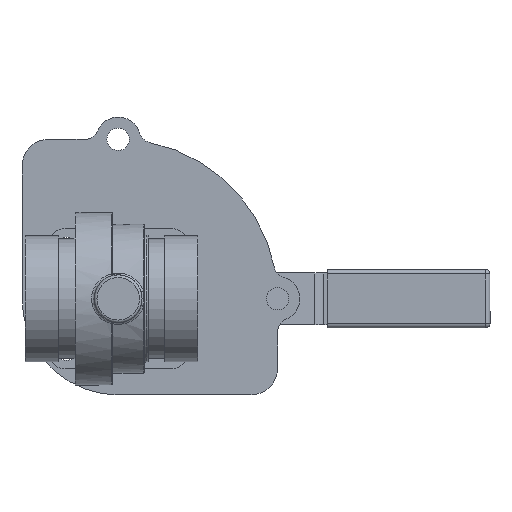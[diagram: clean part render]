
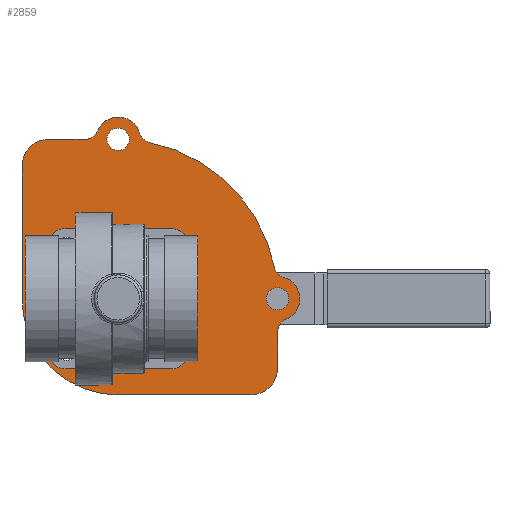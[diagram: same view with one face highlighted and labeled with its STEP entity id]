
A CAD part, front view. The second image highlights one B-rep face of the part: STEP entity #2859.
In plain terms, the highlighted planar face has unit normal (0, -1, 0).
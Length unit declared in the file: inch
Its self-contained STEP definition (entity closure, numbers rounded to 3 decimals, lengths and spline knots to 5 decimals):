
#128=FACE_BOUND('',#493,.T.);
#129=FACE_BOUND('',#494,.T.);
#130=FACE_BOUND('',#495,.T.);
#131=FACE_BOUND('',#496,.T.);
#132=FACE_BOUND('',#497,.T.);
#133=FACE_BOUND('',#498,.T.);
#134=FACE_BOUND('',#499,.T.);
#172=PLANE('',#3267);
#314=FACE_OUTER_BOUND('',#492,.T.);
#492=EDGE_LOOP('',(#2262,#2263,#2264,#2265,#2266,#2267,#2268,#2269,#2270,
#2271,#2272,#2273,#2274,#2275));
#493=EDGE_LOOP('',(#2276));
#494=EDGE_LOOP('',(#2277));
#495=EDGE_LOOP('',(#2278));
#496=EDGE_LOOP('',(#2279));
#497=EDGE_LOOP('',(#2280));
#498=EDGE_LOOP('',(#2281));
#499=EDGE_LOOP('',(#2282));
#629=LINE('',#5368,#800);
#633=LINE('',#5380,#804);
#643=LINE('',#5428,#814);
#647=LINE('',#5439,#818);
#800=VECTOR('',#3872,0.3937);
#804=VECTOR('',#3884,0.3937);
#814=VECTOR('',#3938,0.3937);
#818=VECTOR('',#3950,0.3937);
#1021=CIRCLE('',#3214,0.21);
#1023=CIRCLE('',#3217,0.19);
#1025=CIRCLE('',#3220,0.19);
#1027=CIRCLE('',#3223,0.19);
#1029=CIRCLE('',#3226,0.19);
#1031=CIRCLE('',#3229,0.21);
#1033=CIRCLE('',#3232,0.36);
#1034=CIRCLE('',#3234,1.81);
#1036=CIRCLE('',#3238,0.5);
#1038=CIRCLE('',#3242,0.25);
#1040=CIRCLE('',#3245,0.42);
#1042=CIRCLE('',#3248,0.25);
#1044=CIRCLE('',#3251,3.);
#1046=CIRCLE('',#3254,0.25);
#1048=CIRCLE('',#3257,0.42);
#1050=CIRCLE('',#3260,0.25);
#1052=CIRCLE('',#3264,0.5);
#1225=VERTEX_POINT('',#5318);
#1227=VERTEX_POINT('',#5324);
#1229=VERTEX_POINT('',#5330);
#1231=VERTEX_POINT('',#5336);
#1233=VERTEX_POINT('',#5342);
#1235=VERTEX_POINT('',#5348);
#1237=VERTEX_POINT('',#5354);
#1238=VERTEX_POINT('',#5358);
#1239=VERTEX_POINT('',#5359);
#1242=VERTEX_POINT('',#5367);
#1244=VERTEX_POINT('',#5373);
#1246=VERTEX_POINT('',#5379);
#1248=VERTEX_POINT('',#5385);
#1250=VERTEX_POINT('',#5391);
#1252=VERTEX_POINT('',#5397);
#1254=VERTEX_POINT('',#5403);
#1256=VERTEX_POINT('',#5409);
#1258=VERTEX_POINT('',#5415);
#1260=VERTEX_POINT('',#5421);
#1262=VERTEX_POINT('',#5427);
#1264=VERTEX_POINT('',#5433);
#1560=EDGE_CURVE('',#1225,#1225,#1021,.T.);
#1563=EDGE_CURVE('',#1227,#1227,#1023,.T.);
#1566=EDGE_CURVE('',#1229,#1229,#1025,.T.);
#1569=EDGE_CURVE('',#1231,#1231,#1027,.T.);
#1572=EDGE_CURVE('',#1233,#1233,#1029,.T.);
#1575=EDGE_CURVE('',#1235,#1235,#1031,.T.);
#1578=EDGE_CURVE('',#1237,#1237,#1033,.T.);
#1579=EDGE_CURVE('',#1238,#1239,#1034,.T.);
#1583=EDGE_CURVE('',#1239,#1242,#629,.T.);
#1586=EDGE_CURVE('',#1242,#1244,#1036,.T.);
#1589=EDGE_CURVE('',#1244,#1246,#633,.T.);
#1592=EDGE_CURVE('',#1246,#1248,#1038,.T.);
#1595=EDGE_CURVE('',#1248,#1250,#1040,.T.);
#1598=EDGE_CURVE('',#1250,#1252,#1042,.T.);
#1601=EDGE_CURVE('',#1252,#1254,#1044,.T.);
#1604=EDGE_CURVE('',#1254,#1256,#1046,.T.);
#1607=EDGE_CURVE('',#1256,#1258,#1048,.T.);
#1610=EDGE_CURVE('',#1258,#1260,#1050,.T.);
#1613=EDGE_CURVE('',#1260,#1262,#643,.T.);
#1616=EDGE_CURVE('',#1262,#1264,#1052,.T.);
#1619=EDGE_CURVE('',#1264,#1238,#647,.T.);
#2262=ORIENTED_EDGE('',*,*,#1619,.T.);
#2263=ORIENTED_EDGE('',*,*,#1579,.T.);
#2264=ORIENTED_EDGE('',*,*,#1583,.T.);
#2265=ORIENTED_EDGE('',*,*,#1586,.T.);
#2266=ORIENTED_EDGE('',*,*,#1589,.T.);
#2267=ORIENTED_EDGE('',*,*,#1592,.T.);
#2268=ORIENTED_EDGE('',*,*,#1595,.T.);
#2269=ORIENTED_EDGE('',*,*,#1598,.T.);
#2270=ORIENTED_EDGE('',*,*,#1601,.T.);
#2271=ORIENTED_EDGE('',*,*,#1604,.T.);
#2272=ORIENTED_EDGE('',*,*,#1607,.T.);
#2273=ORIENTED_EDGE('',*,*,#1610,.T.);
#2274=ORIENTED_EDGE('',*,*,#1613,.T.);
#2275=ORIENTED_EDGE('',*,*,#1616,.T.);
#2276=ORIENTED_EDGE('',*,*,#1560,.T.);
#2277=ORIENTED_EDGE('',*,*,#1563,.T.);
#2278=ORIENTED_EDGE('',*,*,#1566,.T.);
#2279=ORIENTED_EDGE('',*,*,#1569,.T.);
#2280=ORIENTED_EDGE('',*,*,#1572,.T.);
#2281=ORIENTED_EDGE('',*,*,#1575,.T.);
#2282=ORIENTED_EDGE('',*,*,#1578,.T.);
#2859=ADVANCED_FACE('',(#314,#128,#129,#130,#131,#132,#133,#134),#172,.F.);
#3214=AXIS2_PLACEMENT_3D('',#5320,#3818,#3819);
#3217=AXIS2_PLACEMENT_3D('',#5326,#3825,#3826);
#3220=AXIS2_PLACEMENT_3D('',#5332,#3832,#3833);
#3223=AXIS2_PLACEMENT_3D('',#5338,#3839,#3840);
#3226=AXIS2_PLACEMENT_3D('',#5344,#3846,#3847);
#3229=AXIS2_PLACEMENT_3D('',#5350,#3853,#3854);
#3232=AXIS2_PLACEMENT_3D('',#5356,#3860,#3861);
#3234=AXIS2_PLACEMENT_3D('',#5360,#3864,#3865);
#3238=AXIS2_PLACEMENT_3D('',#5374,#3877,#3878);
#3242=AXIS2_PLACEMENT_3D('',#5386,#3889,#3890);
#3245=AXIS2_PLACEMENT_3D('',#5392,#3896,#3897);
#3248=AXIS2_PLACEMENT_3D('',#5398,#3903,#3904);
#3251=AXIS2_PLACEMENT_3D('',#5404,#3910,#3911);
#3254=AXIS2_PLACEMENT_3D('',#5410,#3917,#3918);
#3257=AXIS2_PLACEMENT_3D('',#5416,#3924,#3925);
#3260=AXIS2_PLACEMENT_3D('',#5422,#3931,#3932);
#3264=AXIS2_PLACEMENT_3D('',#5434,#3943,#3944);
#3267=AXIS2_PLACEMENT_3D('',#5441,#3952,#3953);
#3818=DIRECTION('center_axis',(0.,1.,0.));
#3819=DIRECTION('ref_axis',(-1.,0.,0.));
#3825=DIRECTION('center_axis',(0.,1.,0.));
#3826=DIRECTION('ref_axis',(-1.,0.,0.));
#3832=DIRECTION('center_axis',(0.,1.,0.));
#3833=DIRECTION('ref_axis',(-1.,0.,0.));
#3839=DIRECTION('center_axis',(0.,1.,0.));
#3840=DIRECTION('ref_axis',(-1.,0.,0.));
#3846=DIRECTION('center_axis',(0.,1.,0.));
#3847=DIRECTION('ref_axis',(-1.,0.,0.));
#3853=DIRECTION('center_axis',(0.,1.,0.));
#3854=DIRECTION('ref_axis',(-1.,0.,0.));
#3860=DIRECTION('center_axis',(0.,1.,0.));
#3861=DIRECTION('ref_axis',(-1.,0.,0.));
#3864=DIRECTION('center_axis',(0.,-1.,0.));
#3865=DIRECTION('ref_axis',(0.,0.,1.));
#3872=DIRECTION('',(1.,0.,0.));
#3877=DIRECTION('center_axis',(0.,-1.,0.));
#3878=DIRECTION('ref_axis',(-1.,0.,0.));
#3884=DIRECTION('',(0.,0.,1.));
#3889=DIRECTION('center_axis',(0.,1.,0.));
#3890=DIRECTION('ref_axis',(-1.,0.,0.));
#3896=DIRECTION('center_axis',(0.,-1.,0.));
#3897=DIRECTION('ref_axis',(-0.277,0.,-0.961));
#3903=DIRECTION('center_axis',(0.,1.,0.));
#3904=DIRECTION('ref_axis',(-0.277,0.,-0.961));
#3910=DIRECTION('center_axis',(0.,-1.,0.));
#3911=DIRECTION('ref_axis',(-0.198,0.,-0.98));
#3917=DIRECTION('center_axis',(0.,1.,0.));
#3918=DIRECTION('ref_axis',(-0.198,0.,-0.98));
#3924=DIRECTION('center_axis',(0.,-1.,0.));
#3925=DIRECTION('ref_axis',(0.928,0.,-0.373));
#3931=DIRECTION('center_axis',(0.,1.,0.));
#3932=DIRECTION('ref_axis',(0.928,0.,-0.373));
#3938=DIRECTION('',(-1.,0.,0.));
#3943=DIRECTION('center_axis',(0.,-1.,0.));
#3944=DIRECTION('ref_axis',(1.,0.,0.));
#3950=DIRECTION('',(0.,0.,-1.));
#3952=DIRECTION('center_axis',(0.,1.,0.));
#3953=DIRECTION('ref_axis',(0.,0.,1.));
#5318=CARTESIAN_POINT('',(3.21,0.,0.));
#5320=CARTESIAN_POINT('Origin',(3.,0.,0.));
#5324=CARTESIAN_POINT('',(-0.78227,0.,-0.97227));
#5326=CARTESIAN_POINT('Origin',(-0.97227,0.,-0.97227));
#5330=CARTESIAN_POINT('',(1.16227,0.,0.97227));
#5332=CARTESIAN_POINT('Origin',(0.97227,0.,0.97227));
#5336=CARTESIAN_POINT('',(1.16227,0.,-0.97227));
#5338=CARTESIAN_POINT('Origin',(0.97227,0.,-0.97227));
#5342=CARTESIAN_POINT('',(-0.78227,0.,0.97227));
#5344=CARTESIAN_POINT('Origin',(-0.97227,0.,0.97227));
#5348=CARTESIAN_POINT('',(0.21,0.,3.));
#5350=CARTESIAN_POINT('Origin',(0.,0.,3.));
#5354=CARTESIAN_POINT('',(0.36,0.,0.));
#5356=CARTESIAN_POINT('Origin',(0.,0.,0.));
#5358=CARTESIAN_POINT('',(-1.81,0.,0.));
#5359=CARTESIAN_POINT('',(0.,0.,-1.81));
#5360=CARTESIAN_POINT('Origin',(0.,0.,0.));
#5367=CARTESIAN_POINT('',(2.5,0.,-1.81));
#5368=CARTESIAN_POINT('',(0.,0.,-1.81));
#5373=CARTESIAN_POINT('',(3.,0.,-1.31));
#5374=CARTESIAN_POINT('Origin',(2.5,0.,-1.31));
#5379=CARTESIAN_POINT('',(3.,0.,-0.62161));
#5380=CARTESIAN_POINT('',(3.,0.,-1.31));
#5385=CARTESIAN_POINT('',(3.15672,0.,-0.38967));
#5386=CARTESIAN_POINT('Origin',(3.25,0.,-0.62161));
#5391=CARTESIAN_POINT('',(3.11635,0.,0.40356));
#5392=CARTESIAN_POINT('Origin',(3.,0.,0.));
#5397=CARTESIAN_POINT('',(2.94055,0.,0.59426));
#5398=CARTESIAN_POINT('Origin',(3.1856,0.,0.64378));
#5403=CARTESIAN_POINT('',(0.59426,0.,2.94055));
#5404=CARTESIAN_POINT('Origin',(0.,0.,0.));
#5409=CARTESIAN_POINT('',(0.40356,0.,3.11635));
#5410=CARTESIAN_POINT('Origin',(0.64378,0.,3.1856));
#5415=CARTESIAN_POINT('',(-0.38967,0.,3.15672));
#5416=CARTESIAN_POINT('Origin',(0.,0.,3.));
#5421=CARTESIAN_POINT('',(-0.62161,0.,3.));
#5422=CARTESIAN_POINT('Origin',(-0.62161,0.,3.25));
#5427=CARTESIAN_POINT('',(-1.31,0.,3.));
#5428=CARTESIAN_POINT('',(-0.62161,0.,3.));
#5433=CARTESIAN_POINT('',(-1.81,0.,2.5));
#5434=CARTESIAN_POINT('Origin',(-1.31,0.,2.5));
#5439=CARTESIAN_POINT('',(-1.81,0.,2.5));
#5441=CARTESIAN_POINT('Origin',(0.50298,0.,0.50298));
